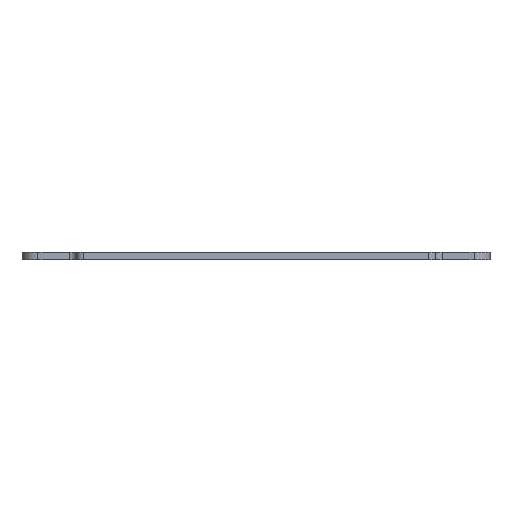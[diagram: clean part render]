
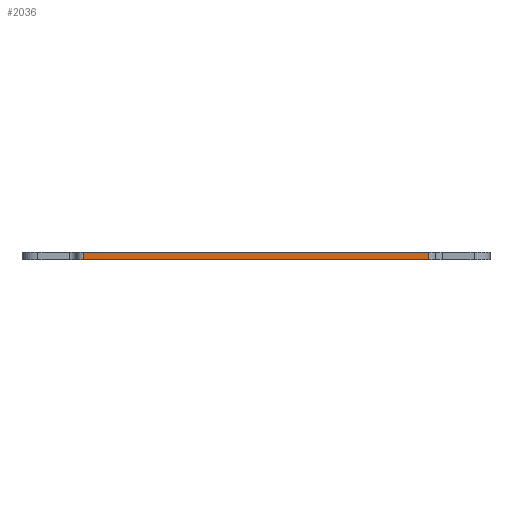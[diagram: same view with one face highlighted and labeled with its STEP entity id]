
A CAD part, front view. The second image highlights one B-rep face of the part: STEP entity #2036.
In plain terms, the highlighted planar face has unit normal (0, -1, 0).
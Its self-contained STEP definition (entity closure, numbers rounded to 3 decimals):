
#72 = PLANE('',#73);
#73 = AXIS2_PLACEMENT_3D('',#74,#75,#76);
#74 = CARTESIAN_POINT('',(-0.013,0.366,0.));
#75 = DIRECTION('',(-0.,-0.,-1.));
#76 = DIRECTION('',(-1.,0.,0.));
#126 = PLANE('',#127);
#127 = AXIS2_PLACEMENT_3D('',#128,#129,#130);
#128 = CARTESIAN_POINT('',(-0.013,0.366,1.6));
#129 = DIRECTION('',(-0.,-0.,-1.));
#130 = DIRECTION('',(-1.,0.,0.));
#766 = VERTEX_POINT('',#767);
#767 = CARTESIAN_POINT('',(37.956,-79.05,0.));
#786 = CYLINDRICAL_SURFACE('',#787,1.5);
#787 = AXIS2_PLACEMENT_3D('',#788,#789,#790);
#788 = CARTESIAN_POINT('',(37.956,-77.55,0.));
#789 = DIRECTION('',(-0.,-0.,-1.));
#790 = DIRECTION('',(1.,0.,-0.));
#798 = EDGE_CURVE('',#799,#766,#801,.T.);
#799 = VERTEX_POINT('',#800);
#800 = CARTESIAN_POINT('',(-38.,-79.05,0.));
#801 = SURFACE_CURVE('',#802,(#806,#813),.PCURVE_S1.);
#802 = LINE('',#803,#804);
#803 = CARTESIAN_POINT('',(-38.,-79.05,0.));
#804 = VECTOR('',#805,1.);
#805 = DIRECTION('',(1.,0.,0.));
#806 = PCURVE('',#72,#807);
#807 = DEFINITIONAL_REPRESENTATION('',(#808),#812);
#808 = LINE('',#809,#810);
#809 = CARTESIAN_POINT('',(37.987,-79.416));
#810 = VECTOR('',#811,1.);
#811 = DIRECTION('',(-1.,0.));
#812 = ( GEOMETRIC_REPRESENTATION_CONTEXT(2) 
PARAMETRIC_REPRESENTATION_CONTEXT() REPRESENTATION_CONTEXT('2D SPACE',''
  ) );
#813 = PCURVE('',#814,#819);
#814 = PLANE('',#815);
#815 = AXIS2_PLACEMENT_3D('',#816,#817,#818);
#816 = CARTESIAN_POINT('',(-38.,-79.05,0.));
#817 = DIRECTION('',(0.,1.,0.));
#818 = DIRECTION('',(1.,0.,0.));
#819 = DEFINITIONAL_REPRESENTATION('',(#820),#824);
#820 = LINE('',#821,#822);
#821 = CARTESIAN_POINT('',(0.,0.));
#822 = VECTOR('',#823,1.);
#823 = DIRECTION('',(1.,0.));
#824 = ( GEOMETRIC_REPRESENTATION_CONTEXT(2) 
PARAMETRIC_REPRESENTATION_CONTEXT() REPRESENTATION_CONTEXT('2D SPACE',''
  ) );
#847 = CYLINDRICAL_SURFACE('',#848,1.5);
#848 = AXIS2_PLACEMENT_3D('',#849,#850,#851);
#849 = CARTESIAN_POINT('',(-38.,-77.55,0.));
#850 = DIRECTION('',(-0.,-0.,-1.));
#851 = DIRECTION('',(1.,0.,-0.));
#1514 = VERTEX_POINT('',#1515);
#1515 = CARTESIAN_POINT('',(37.956,-79.05,1.6));
#1541 = EDGE_CURVE('',#1542,#1514,#1544,.T.);
#1542 = VERTEX_POINT('',#1543);
#1543 = CARTESIAN_POINT('',(-38.,-79.05,1.6));
#1544 = SURFACE_CURVE('',#1545,(#1549,#1556),.PCURVE_S1.);
#1545 = LINE('',#1546,#1547);
#1546 = CARTESIAN_POINT('',(-38.,-79.05,1.6));
#1547 = VECTOR('',#1548,1.);
#1548 = DIRECTION('',(1.,0.,0.));
#1549 = PCURVE('',#126,#1550);
#1550 = DEFINITIONAL_REPRESENTATION('',(#1551),#1555);
#1551 = LINE('',#1552,#1553);
#1552 = CARTESIAN_POINT('',(37.987,-79.416));
#1553 = VECTOR('',#1554,1.);
#1554 = DIRECTION('',(-1.,0.));
#1555 = ( GEOMETRIC_REPRESENTATION_CONTEXT(2) 
PARAMETRIC_REPRESENTATION_CONTEXT() REPRESENTATION_CONTEXT('2D SPACE',''
  ) );
#1556 = PCURVE('',#814,#1557);
#1557 = DEFINITIONAL_REPRESENTATION('',(#1558),#1562);
#1558 = LINE('',#1559,#1560);
#1559 = CARTESIAN_POINT('',(0.,-1.6));
#1560 = VECTOR('',#1561,1.);
#1561 = DIRECTION('',(1.,0.));
#1562 = ( GEOMETRIC_REPRESENTATION_CONTEXT(2) 
PARAMETRIC_REPRESENTATION_CONTEXT() REPRESENTATION_CONTEXT('2D SPACE',''
  ) );
#1986 = EDGE_CURVE('',#799,#1542,#1987,.T.);
#1987 = SURFACE_CURVE('',#1988,(#1992,#1999),.PCURVE_S1.);
#1988 = LINE('',#1989,#1990);
#1989 = CARTESIAN_POINT('',(-38.,-79.05,0.));
#1990 = VECTOR('',#1991,1.);
#1991 = DIRECTION('',(0.,0.,1.));
#1992 = PCURVE('',#847,#1993);
#1993 = DEFINITIONAL_REPRESENTATION('',(#1994),#1998);
#1994 = LINE('',#1995,#1996);
#1995 = CARTESIAN_POINT('',(-4.712,0.));
#1996 = VECTOR('',#1997,1.);
#1997 = DIRECTION('',(-0.,-1.));
#1998 = ( GEOMETRIC_REPRESENTATION_CONTEXT(2) 
PARAMETRIC_REPRESENTATION_CONTEXT() REPRESENTATION_CONTEXT('2D SPACE',''
  ) );
#1999 = PCURVE('',#814,#2000);
#2000 = DEFINITIONAL_REPRESENTATION('',(#2001),#2005);
#2001 = LINE('',#2002,#2003);
#2002 = CARTESIAN_POINT('',(0.,0.));
#2003 = VECTOR('',#2004,1.);
#2004 = DIRECTION('',(0.,-1.));
#2005 = ( GEOMETRIC_REPRESENTATION_CONTEXT(2) 
PARAMETRIC_REPRESENTATION_CONTEXT() REPRESENTATION_CONTEXT('2D SPACE',''
  ) );
#2036 = ADVANCED_FACE('',(#2037),#814,.F.);
#2037 = FACE_BOUND('',#2038,.F.);
#2038 = EDGE_LOOP('',(#2039,#2060,#2061,#2062));
#2039 = ORIENTED_EDGE('',*,*,#2040,.F.);
#2040 = EDGE_CURVE('',#766,#1514,#2041,.T.);
#2041 = SURFACE_CURVE('',#2042,(#2046,#2053),.PCURVE_S1.);
#2042 = LINE('',#2043,#2044);
#2043 = CARTESIAN_POINT('',(37.956,-79.05,0.));
#2044 = VECTOR('',#2045,1.);
#2045 = DIRECTION('',(0.,0.,1.));
#2046 = PCURVE('',#814,#2047);
#2047 = DEFINITIONAL_REPRESENTATION('',(#2048),#2052);
#2048 = LINE('',#2049,#2050);
#2049 = CARTESIAN_POINT('',(75.956,0.));
#2050 = VECTOR('',#2051,1.);
#2051 = DIRECTION('',(0.,-1.));
#2052 = ( GEOMETRIC_REPRESENTATION_CONTEXT(2) 
PARAMETRIC_REPRESENTATION_CONTEXT() REPRESENTATION_CONTEXT('2D SPACE',''
  ) );
#2053 = PCURVE('',#786,#2054);
#2054 = DEFINITIONAL_REPRESENTATION('',(#2055),#2059);
#2055 = LINE('',#2056,#2057);
#2056 = CARTESIAN_POINT('',(-4.712,0.));
#2057 = VECTOR('',#2058,1.);
#2058 = DIRECTION('',(-0.,-1.));
#2059 = ( GEOMETRIC_REPRESENTATION_CONTEXT(2) 
PARAMETRIC_REPRESENTATION_CONTEXT() REPRESENTATION_CONTEXT('2D SPACE',''
  ) );
#2060 = ORIENTED_EDGE('',*,*,#798,.F.);
#2061 = ORIENTED_EDGE('',*,*,#1986,.T.);
#2062 = ORIENTED_EDGE('',*,*,#1541,.T.);
